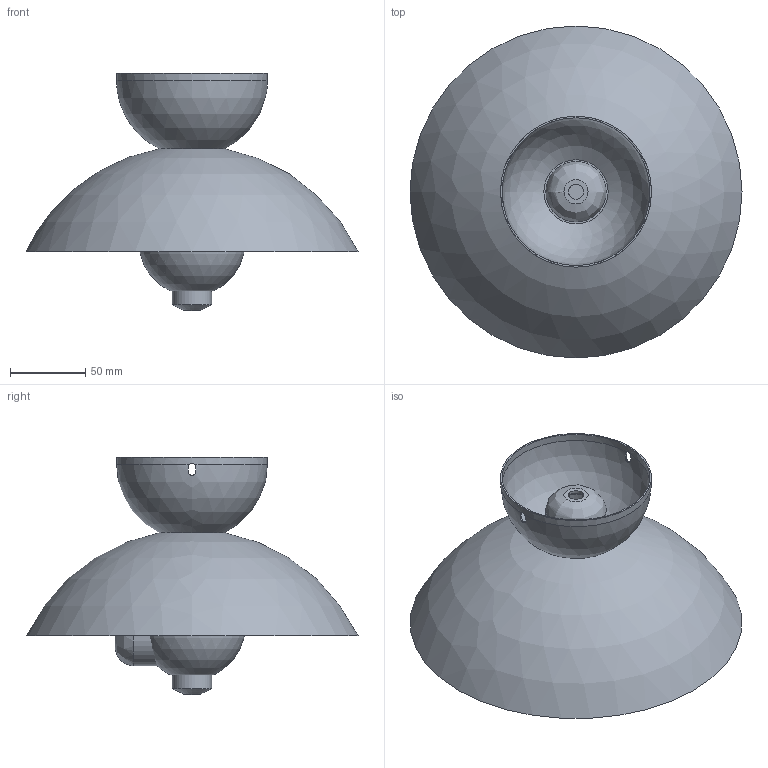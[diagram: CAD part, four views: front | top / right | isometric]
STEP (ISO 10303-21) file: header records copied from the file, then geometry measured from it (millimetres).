
FILE_DESCRIPTION( ( 'STEP AP203' ), '1' );
FILE_NAME( '//srvbf/BF Disegni/CIRCLE/CIRCLE APPLIQUE rev1/CIRCLE-AV Applique-Plafone 3D.stp', '2020-10-16T06:07:02', ( ' ' ), ( ' ' ), 'XStep 1.0', ' ', ' ' );
FILE_SCHEMA( ( 'CONFIG_CONTROL_DESIGN) ( )' ) );
Length unit declared in the file: metre
Products named in the file (6): Assem1; 1; 2; 3; 4; 5
Bounding box: 220 x 220 x 157.2 mm (x, y, z)
Volume: 560519.7 mm3; surface area: 363832.9 mm2
Topology: 10 solids, 10 shells, 82 faces, 202 edges, 134 vertices
Faces by surface type: plane 38, cylinder 22, sphere 14, bspline 4, cone 4
Full cylindrical faces by diameter (mm): 10 x2, 26 x2, 36 x2, 40 x4, 98 x2, 100 x2
Entity records: 1562 total; most frequent: CARTESIAN_POINT 459, DIRECTION 180, ORIENTED_EDGE 142, AXIS2_PLACEMENT_3D 80, EDGE_CURVE 71, EDGE_LOOP 64, VERTEX_POINT 55, FACE_OUTER_BOUND 54
